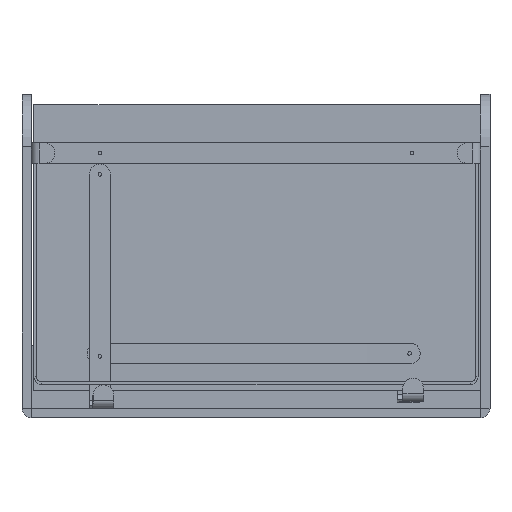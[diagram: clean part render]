
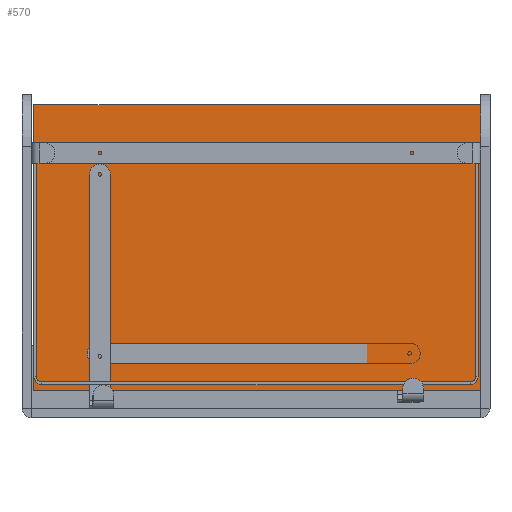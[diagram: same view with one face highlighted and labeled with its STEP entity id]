
A CAD part, front view. The second image highlights one B-rep face of the part: STEP entity #570.
In plain terms, the highlighted planar face has unit normal (0, -1, 0).
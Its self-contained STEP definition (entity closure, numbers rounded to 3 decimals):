
#8 = DIRECTION ( 'NONE',  ( 0., 0., -1. ) ) ;
#27 = LINE ( 'NONE', #4572, #5644 ) ;
#528 = EDGE_CURVE ( 'NONE', #4650, #3553, #1083, .T. ) ;
#570 = ADVANCED_FACE ( 'NONE', ( #4454 ), #6005, .T. ) ;
#604 = VERTEX_POINT ( 'NONE', #1958 ) ;
#774 = EDGE_CURVE ( 'NONE', #5555, #4650, #2655, .T. ) ;
#1083 = LINE ( 'NONE', #5652, #5011 ) ;
#1307 = EDGE_CURVE ( 'NONE', #604, #5555, #5228, .T. ) ;
#1437 = CARTESIAN_POINT ( 'NONE',  ( 0., 0., 0. ) ) ;
#1705 = AXIS2_PLACEMENT_3D ( 'NONE', #1437, #5455, #8 ) ;
#1730 = DIRECTION ( 'NONE',  ( 1., 0., 0. ) ) ;
#1958 = CARTESIAN_POINT ( 'NONE',  ( 0., 0., -550. ) ) ;
#2170 = CARTESIAN_POINT ( 'NONE',  ( 864., 0., 0. ) ) ;
#2541 = ORIENTED_EDGE ( 'NONE', *, *, #774, .F. ) ;
#2655 = LINE ( 'NONE', #5117, #6110 ) ;
#2912 = EDGE_LOOP ( 'NONE', ( #6210, #5053, #4136, #2541 ) ) ;
#3168 = DIRECTION ( 'NONE',  ( 0., 0., -1. ) ) ;
#3553 = VERTEX_POINT ( 'NONE', #5707 ) ;
#3777 = DIRECTION ( 'NONE',  ( 0., 0., 1. ) ) ;
#4035 = DIRECTION ( 'NONE',  ( -1., 0., 0. ) ) ;
#4136 = ORIENTED_EDGE ( 'NONE', *, *, #528, .F. ) ;
#4454 = FACE_OUTER_BOUND ( 'NONE', #2912, .T. ) ;
#4572 = CARTESIAN_POINT ( 'NONE',  ( 0., 0., -550. ) ) ;
#4650 = VERTEX_POINT ( 'NONE', #2170 ) ;
#5011 = VECTOR ( 'NONE', #3168, 1000. ) ;
#5053 = ORIENTED_EDGE ( 'NONE', *, *, #5527, .F. ) ;
#5066 = CARTESIAN_POINT ( 'NONE',  ( 0., 0., 0. ) ) ;
#5117 = CARTESIAN_POINT ( 'NONE',  ( 0., 0., 0. ) ) ;
#5228 = LINE ( 'NONE', #5255, #5784 ) ;
#5255 = CARTESIAN_POINT ( 'NONE',  ( 0., 0., 0. ) ) ;
#5455 = DIRECTION ( 'NONE',  ( 0., -1., 0. ) ) ;
#5527 = EDGE_CURVE ( 'NONE', #3553, #604, #27, .T. ) ;
#5555 = VERTEX_POINT ( 'NONE', #5066 ) ;
#5644 = VECTOR ( 'NONE', #4035, 1000. ) ;
#5652 = CARTESIAN_POINT ( 'NONE',  ( 864., 0., 0. ) ) ;
#5707 = CARTESIAN_POINT ( 'NONE',  ( 864., 0., -550. ) ) ;
#5784 = VECTOR ( 'NONE', #3777, 1000. ) ;
#6005 = PLANE ( 'NONE',  #1705 ) ;
#6110 = VECTOR ( 'NONE', #1730, 1000. ) ;
#6210 = ORIENTED_EDGE ( 'NONE', *, *, #1307, .F. ) ;
